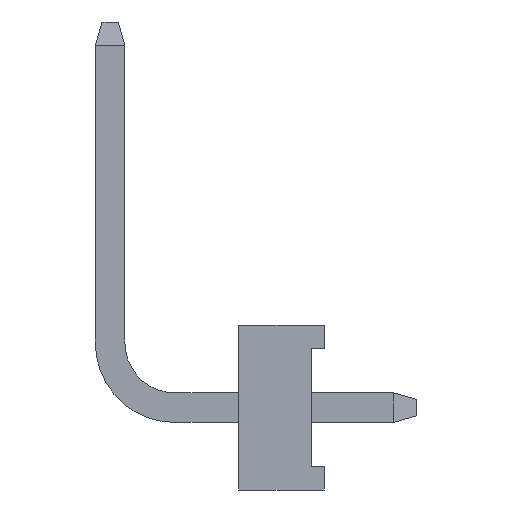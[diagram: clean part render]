
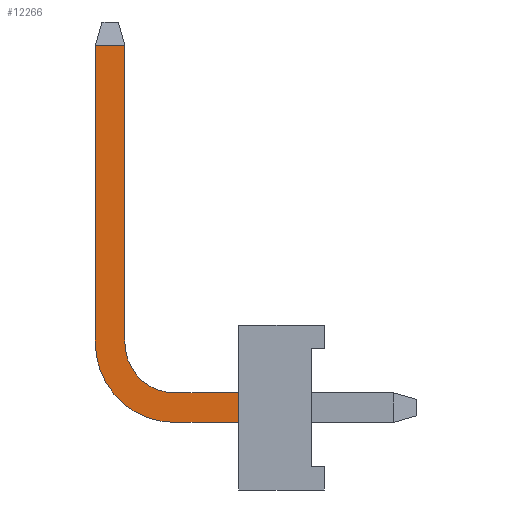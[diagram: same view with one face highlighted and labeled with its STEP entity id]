
A CAD part, left-side view. The second image highlights one B-rep face of the part: STEP entity #12266.
In plain terms, the highlighted planar face has unit normal (-1, 0, 0).
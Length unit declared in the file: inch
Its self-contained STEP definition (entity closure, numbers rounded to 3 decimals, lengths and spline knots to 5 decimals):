
#1873=DIRECTION('',(0.,0.,-1.));
#1874=VECTOR('',#1873,0.045);
#1875=CARTESIAN_POINT('',(-1.0365,0.065,0.0225));
#1876=LINE('',#1875,#1874);
#4237=DIRECTION('',(0.,-1.,0.));
#4238=VECTOR('',#4237,0.045);
#4239=CARTESIAN_POINT('',(-1.0365,0.2825,0.55));
#4240=LINE('',#4239,#4238);
#4241=DIRECTION('',(0.,0.,-1.));
#4242=VECTOR('',#4241,0.452);
#4243=CARTESIAN_POINT('',(-1.0365,0.2375,0.55));
#4244=LINE('',#4243,#4242);
#4245=CARTESIAN_POINT('',(-1.0365,0.162,0.098));
#4246=DIRECTION('',(-1.,0.,0.));
#4247=DIRECTION('',(0.,1.,0.));
#4248=AXIS2_PLACEMENT_3D('',#4245,#4246,#4247);
#4250=DIRECTION('',(0.,-1.,0.));
#4251=VECTOR('',#4250,0.097);
#4252=CARTESIAN_POINT('',(-1.0365,0.162,0.0225));
#4253=LINE('',#4252,#4251);
#4372=DIRECTION('',(0.,0.,-1.));
#4373=VECTOR('',#4372,0.452);
#4374=CARTESIAN_POINT('',(-1.0365,0.2825,0.55));
#4375=LINE('',#4374,#4373);
#4380=CARTESIAN_POINT('',(-1.0365,0.162,0.098));
#4381=DIRECTION('',(-1.,0.,0.));
#4382=DIRECTION('',(0.,1.,0.));
#4383=AXIS2_PLACEMENT_3D('',#4380,#4381,#4382);
#4389=DIRECTION('',(0.,-1.,0.));
#4390=VECTOR('',#4389,0.097);
#4391=CARTESIAN_POINT('',(-1.0365,0.162,-0.0225));
#4392=LINE('',#4391,#4390);
#5498=CARTESIAN_POINT('',(-1.0365,0.2375,0.098));
#5500=VERTEX_POINT('',#5498);
#5501=CARTESIAN_POINT('',(-1.0365,0.2825,0.098));
#5503=VERTEX_POINT('',#5501);
#5506=CARTESIAN_POINT('',(-1.0365,0.162,0.0225));
#5508=VERTEX_POINT('',#5506);
#5509=CARTESIAN_POINT('',(-1.0365,0.162,-0.0225));
#5511=VERTEX_POINT('',#5509);
#5513=CARTESIAN_POINT('',(-1.0365,0.065,0.0225));
#5514=CARTESIAN_POINT('',(-1.0365,0.065,-0.0225));
#5515=VERTEX_POINT('',#5513);
#5516=VERTEX_POINT('',#5514);
#5779=CARTESIAN_POINT('',(-1.0365,0.2825,0.55));
#5780=VERTEX_POINT('',#5779);
#5783=CARTESIAN_POINT('',(-1.0365,0.2375,0.55));
#5784=VERTEX_POINT('',#5783);
#12244=CARTESIAN_POINT('',(-1.0365,0.2375,0.585));
#12245=DIRECTION('',(-1.,0.,0.));
#12246=DIRECTION('',(0.,1.,0.));
#12247=AXIS2_PLACEMENT_3D('',#12244,#12245,#12246);
#12248=PLANE('',#12247);
#12250=ORIENTED_EDGE('',*,*,#12249,.T.);
#12252=ORIENTED_EDGE('',*,*,#12251,.T.);
#12254=ORIENTED_EDGE('',*,*,#12253,.T.);
#12256=ORIENTED_EDGE('',*,*,#12255,.T.);
#12257=ORIENTED_EDGE('',*,*,#8110,.T.);
#12259=ORIENTED_EDGE('',*,*,#12258,.F.);
#12261=ORIENTED_EDGE('',*,*,#12260,.F.);
#12263=ORIENTED_EDGE('',*,*,#12262,.F.);
#12264=EDGE_LOOP('',(#12250,#12252,#12254,#12256,#12257,#12259,#12261,#12263));
#12265=FACE_OUTER_BOUND('',#12264,.F.);
#12266=ADVANCED_FACE('',(#12265),#12248,.T.);
#4249=CIRCLE('',#4248,0.0755);
#4384=CIRCLE('',#4383,0.1205);
#8110=EDGE_CURVE('',#5515,#5516,#1876,.T.);
#12249=EDGE_CURVE('',#5780,#5784,#4240,.T.);
#12251=EDGE_CURVE('',#5784,#5500,#4244,.T.);
#12253=EDGE_CURVE('',#5500,#5508,#4249,.T.);
#12255=EDGE_CURVE('',#5508,#5515,#4253,.T.);
#12258=EDGE_CURVE('',#5511,#5516,#4392,.T.);
#12260=EDGE_CURVE('',#5503,#5511,#4384,.T.);
#12262=EDGE_CURVE('',#5780,#5503,#4375,.T.);
